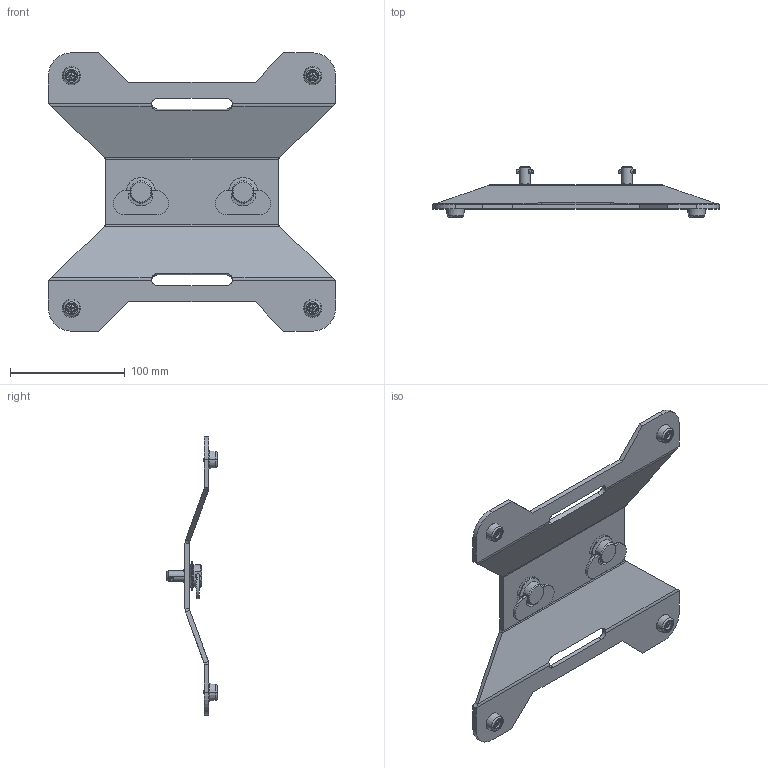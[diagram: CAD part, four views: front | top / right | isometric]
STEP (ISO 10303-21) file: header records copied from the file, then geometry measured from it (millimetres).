
FILE_DESCRIPTION((''),'2;1');
FILE_NAME('GLP-21102_ASM','2022-07-08T11:06:18',('Michael.Spatz'),(''),'CREO PARAMETRIC BY PTC INC, 2022014','CREO PARAMETRIC BY PTC INC, 2022014','');
FILE_SCHEMA(('AUTOMOTIVE_DESIGN { 1 0 10303 214 1 1 1 1 }'));
Length unit declared in the file: millimetre
Products named in the file (8): GLP-13638; GLP-10015; GLP-10014; GLP-10012; GLP-20041_ASM; GLP-10278; GLP-10119; GLP-21102_ASM
Assembly tree (16 placements, depth 3):
  GLP-21102_ASM
    GLP-13638
    GLP-20041_ASM  x2
      GLP-10015
      GLP-10014
      GLP-10012
    GLP-10278  x4
    GLP-10119  x4
Bounding box: 250 x 43.71 x 242.49 mm (x, y, z)
Volume: 184666.8 mm3; surface area: 107850.2 mm2
Topology: 19 solids, 27 shells, 478 faces, 1160 edges, 744 vertices
Faces by surface type: plane 172, cylinder 162, bspline 68, cone 44, torus 24, sphere 8
Entity records: 13983 total; most frequent: CARTESIAN_POINT 2404, DIRECTION 1432, ORIENTED_EDGE 1168, EDGE_CURVE 594, PROPERTY_DEFINITION 527, REPRESENTATION 519, PROPERTY_DEFINITION_REPRESENTATION 519, AXIS2_PLACEMENT_3D 516
